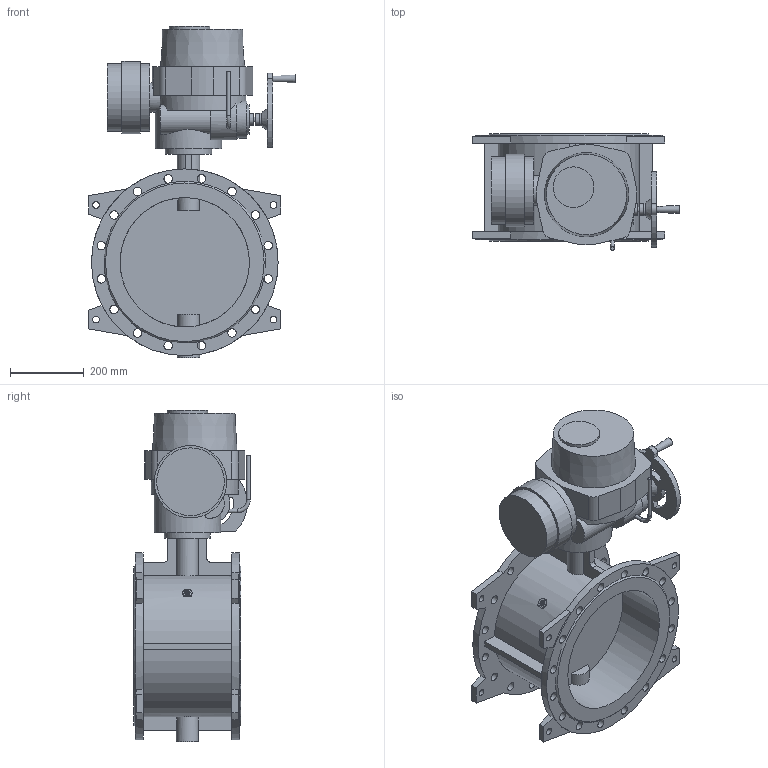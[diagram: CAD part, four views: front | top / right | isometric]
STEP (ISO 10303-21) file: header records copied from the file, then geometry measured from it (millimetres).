
FILE_DESCRIPTION(('STEP AP203'), '1');
FILE_NAME('Çàòâîð 023F.Z DN350 PN10 + ýëåêòðîïðèâîä QT.A120', '', ('UNSPECIFIED'), ('UNSPECIFIED'), 'ASCON STEP Converter 1.6', 'ASCON Math Kernel', '');
FILE_SCHEMA(('CONFIG_CONTROL_DESIGN'));
Length unit declared in the file: millimetre
Bounding box: 559 x 315 x 896 mm (x, y, z)
Volume: 32006926.4 mm3; surface area: 2001827 mm2
Topology: 1 solids, 1 shells, 248 faces, 693 edges, 447 vertices
Faces by surface type: plane 133, cylinder 109, cone 5, torus 1
Full cylindrical faces by diameter (mm): 10 x6, 12 x4, 14 x4, 16 x1, 18 x8, 23 x32, 32 x2, 35 x1, 60 x1, 80 x2, 100 x1, 110 x1, 125 x1, 180 x1, 183 x2, 196 x1, 350 x2, 505 x2
Entity records: 11536 total; most frequent: CARTESIAN_POINT 3040, DIRECTION 1393, ORIENTED_EDGE 1214, EDGE_CURVE 607, AXIS2_PLACEMENT_3D 565, EDGE_LOOP 444, VERTEX_POINT 443, FACE_BOUND 330
